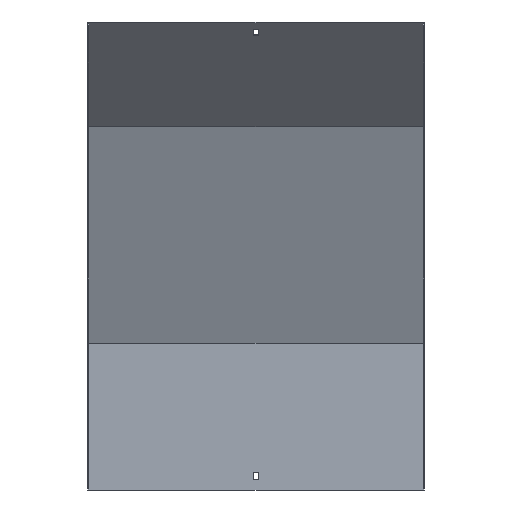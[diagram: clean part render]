
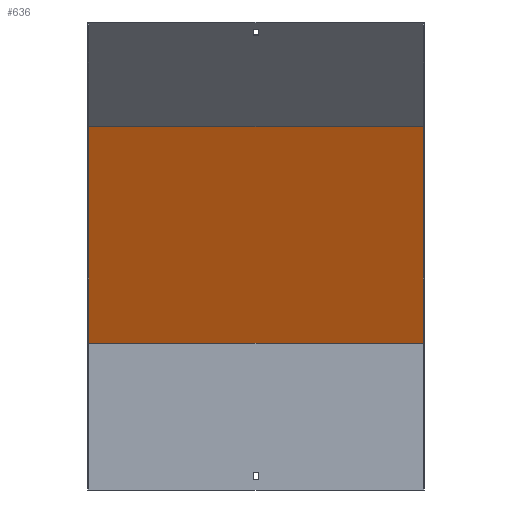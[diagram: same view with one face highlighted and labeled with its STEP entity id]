
A CAD part, front view. The second image highlights one B-rep face of the part: STEP entity #636.
In plain terms, the highlighted planar face has unit normal (0, -0.924, -0.383).
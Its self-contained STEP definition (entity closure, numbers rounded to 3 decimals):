
#55 = VERTEX_POINT ( 'NONE', #262 ) ;
#90 = CARTESIAN_POINT ( 'NONE',  ( -200., 18.5, 175.68 ) ) ;
#106 = CARTESIAN_POINT ( 'NONE',  ( 200., -88.789, 434.699 ) ) ;
#173 = CARTESIAN_POINT ( 'NONE',  ( 201.5, -88.789, 434.699 ) ) ;
#202 = ORIENTED_EDGE ( 'NONE', *, *, #749, .T. ) ;
#203 = DIRECTION ( 'NONE',  ( 0., 0.383, -0.924 ) ) ;
#219 = CARTESIAN_POINT ( 'NONE',  ( -200., -88.789, 434.699 ) ) ;
#241 = VERTEX_POINT ( 'NONE', #90 ) ;
#262 = CARTESIAN_POINT ( 'NONE',  ( 200., 18.5, 175.68 ) ) ;
#263 = CARTESIAN_POINT ( 'NONE',  ( -200., 77.903, 32.268 ) ) ;
#370 = VERTEX_POINT ( 'NONE', #219 ) ;
#372 = CARTESIAN_POINT ( 'NONE',  ( 201.5, 18.5, 175.68 ) ) ;
#389 = DIRECTION ( 'NONE',  ( 0., -0.383, 0.924 ) ) ;
#416 = VECTOR ( 'NONE', #586, 1000. ) ;
#425 = LINE ( 'NONE', #173, #434 ) ;
#434 = VECTOR ( 'NONE', #537, 1000. ) ;
#472 = EDGE_CURVE ( 'NONE', #55, #241, #500, .T. ) ;
#500 = LINE ( 'NONE', #372, #652 ) ;
#509 = LINE ( 'NONE', #838, #416 ) ;
#514 = DIRECTION ( 'NONE',  ( -1., 0., 0. ) ) ;
#519 = CARTESIAN_POINT ( 'NONE',  ( 201.5, 17.092, 179.08 ) ) ;
#523 = DIRECTION ( 'NONE',  ( 0., -0.924, -0.383 ) ) ;
#537 = DIRECTION ( 'NONE',  ( -1., 0., 0. ) ) ;
#556 = ORIENTED_EDGE ( 'NONE', *, *, #594, .F. ) ;
#560 = AXIS2_PLACEMENT_3D ( 'NONE', #519, #523, #203 ) ;
#581 = VECTOR ( 'NONE', #389, 1000. ) ;
#586 = DIRECTION ( 'NONE',  ( 0., -0.383, 0.924 ) ) ;
#594 = EDGE_CURVE ( 'NONE', #241, #370, #722, .T. ) ;
#636 = ADVANCED_FACE ( 'NONE', ( #801 ), #799, .T. ) ;
#652 = VECTOR ( 'NONE', #514, 1000. ) ;
#695 = VERTEX_POINT ( 'NONE', #106 ) ;
#722 = LINE ( 'NONE', #263, #581 ) ;
#725 = EDGE_LOOP ( 'NONE', ( #556, #831, #829, #202 ) ) ;
#749 = EDGE_CURVE ( 'NONE', #695, #370, #425, .T. ) ;
#799 = PLANE ( 'NONE',  #560 ) ;
#801 = FACE_OUTER_BOUND ( 'NONE', #725, .T. ) ;
#829 = ORIENTED_EDGE ( 'NONE', *, *, #844, .T. ) ;
#831 = ORIENTED_EDGE ( 'NONE', *, *, #472, .F. ) ;
#838 = CARTESIAN_POINT ( 'NONE',  ( 200., 77.903, 32.268 ) ) ;
#844 = EDGE_CURVE ( 'NONE', #55, #695, #509, .T. ) ;
